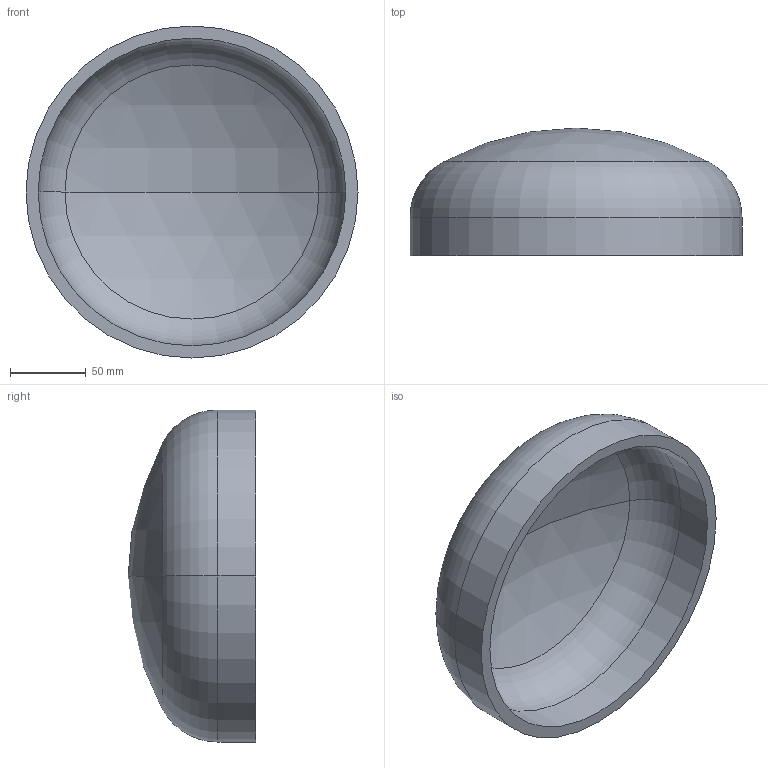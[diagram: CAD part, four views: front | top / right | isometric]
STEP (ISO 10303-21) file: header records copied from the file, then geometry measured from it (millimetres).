
FILE_DESCRIPTION (( 'STEP AP203' ), '1' );
FILE_NAME ('DIN 28013 Korbbogenform_-_Boden DIN 28013 - 219,1 x 25 - I - s=8.step', '2016-07-01T07:42:24', ( '' ), ( '' ), 'SwSTEP 2.0', 'SolidWorks 2013', '' );
FILE_SCHEMA (( 'CONFIG_CONTROL_DESIGN' ));
Length unit declared in the file: millimetre
Products named in the file (1): DIN 28013 Korbbogenform_-_Boden DIN 28013 - 219,1 x 25 - I - s=8
Bounding box: 219.1 x 84.23 x 219.1 mm (x, y, z)
Volume: 531684.3 mm3; surface area: 138360.6 mm2
Topology: 1 solids, 1 shells, 13 faces, 24 edges, 14 vertices
Faces by surface type: torus 4, cylinder 4, sphere 4, plane 1
Entity records: 407 total; most frequent: DIRECTION 72, CARTESIAN_POINT 52, ORIENTED_EDGE 48, AXIS2_PLACEMENT_3D 34, EDGE_CURVE 24, CIRCLE 20, VERTEX_POINT 14, EDGE_LOOP 14
